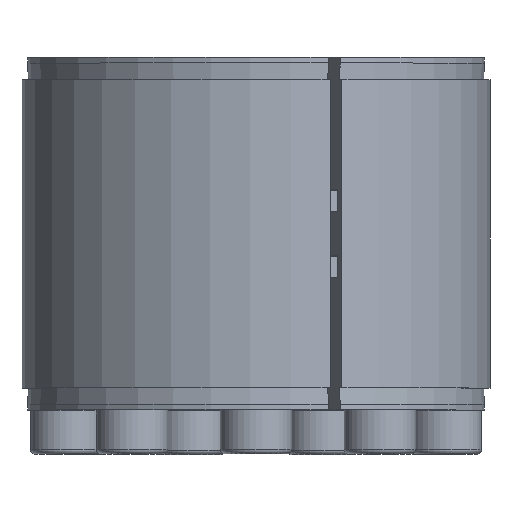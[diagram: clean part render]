
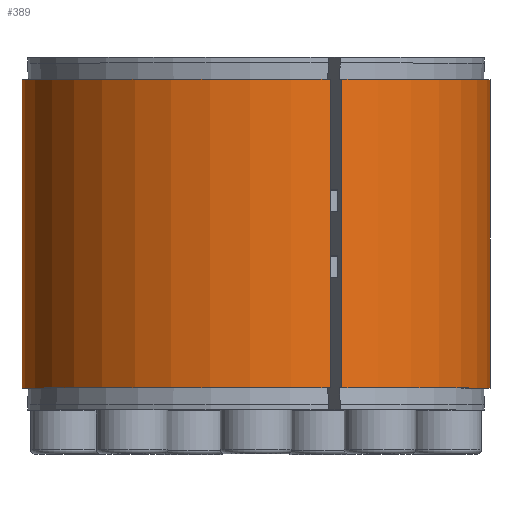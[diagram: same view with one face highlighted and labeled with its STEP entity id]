
A CAD part, top view. The second image highlights one B-rep face of the part: STEP entity #389.
In plain terms, the highlighted cylindrical face has radius 42.5 mm (diameter 85 mm), a partial arc.
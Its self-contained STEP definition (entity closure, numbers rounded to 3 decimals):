
#389 = ADVANCED_FACE( '', ( #633 ), #634, .T. );
#633 = FACE_OUTER_BOUND( '', #868, .T. );
#634 = CYLINDRICAL_SURFACE( '', #869, 42.5 );
#868 = EDGE_LOOP( '', ( #1172, #1173, #1174, #1175 ) );
#869 = AXIS2_PLACEMENT_3D( '', #1176, #1177, #1178 );
#1172 = ORIENTED_EDGE( '', *, *, #1641, .F. );
#1173 = ORIENTED_EDGE( '', *, *, #1642, .T. );
#1174 = ORIENTED_EDGE( '', *, *, #1604, .F. );
#1175 = ORIENTED_EDGE( '', *, *, #1643, .F. );
#1176 = CARTESIAN_POINT( '', ( 0., -60., 0. ) );
#1177 = DIRECTION( '', ( 0., 1., 0. ) );
#1178 = DIRECTION( '', ( 0., 0., -1. ) );
#1604 = EDGE_CURVE( '', #1787, #1789, #1790, .F. );
#1641 = EDGE_CURVE( '', #1857, #1858, #1859, .T. );
#1642 = EDGE_CURVE( '', #1857, #1789, #1860, .T. );
#1643 = EDGE_CURVE( '', #1858, #1787, #1861, .T. );
#1787 = VERTEX_POINT( '', #1999 );
#1789 = VERTEX_POINT( '', #2002 );
#1790 = LINE( '', #2003, #2004 );
#1857 = VERTEX_POINT( '', #2088 );
#1858 = VERTEX_POINT( '', #2089 );
#1859 = LINE( '', #2090, #2091 );
#1860 = CIRCLE( '', #2092, 42.5 );
#1861 = CIRCLE( '', #2093, 42.5 );
#1999 = CARTESIAN_POINT( '', ( 15.611, 4., 39.529 ) );
#2002 = CARTESIAN_POINT( '', ( 15.611, 60., 39.529 ) );
#2003 = CARTESIAN_POINT( '', ( 15.611, -60., 39.529 ) );
#2004 = VECTOR( '', #2228, 1000. );
#2088 = CARTESIAN_POINT( '', ( 13.45, 60., 40.316 ) );
#2089 = CARTESIAN_POINT( '', ( 13.45, 4., 40.316 ) );
#2090 = CARTESIAN_POINT( '', ( 13.45, -60., 40.316 ) );
#2091 = VECTOR( '', #2309, 1000. );
#2092 = AXIS2_PLACEMENT_3D( '', #2310, #2311, #2312 );
#2093 = AXIS2_PLACEMENT_3D( '', #2313, #2314, #2315 );
#2228 = DIRECTION( '', ( 0., -1., 0. ) );
#2309 = DIRECTION( '', ( 0., -1., 0. ) );
#2310 = CARTESIAN_POINT( '', ( 0., 60., 0. ) );
#2311 = DIRECTION( '', ( 0., -1., 0. ) );
#2312 = DIRECTION( '', ( 0., 0., -1. ) );
#2313 = CARTESIAN_POINT( '', ( 0., 4., 0. ) );
#2314 = DIRECTION( '', ( 0., -1., 0. ) );
#2315 = DIRECTION( '', ( 0., 0., -1. ) );
